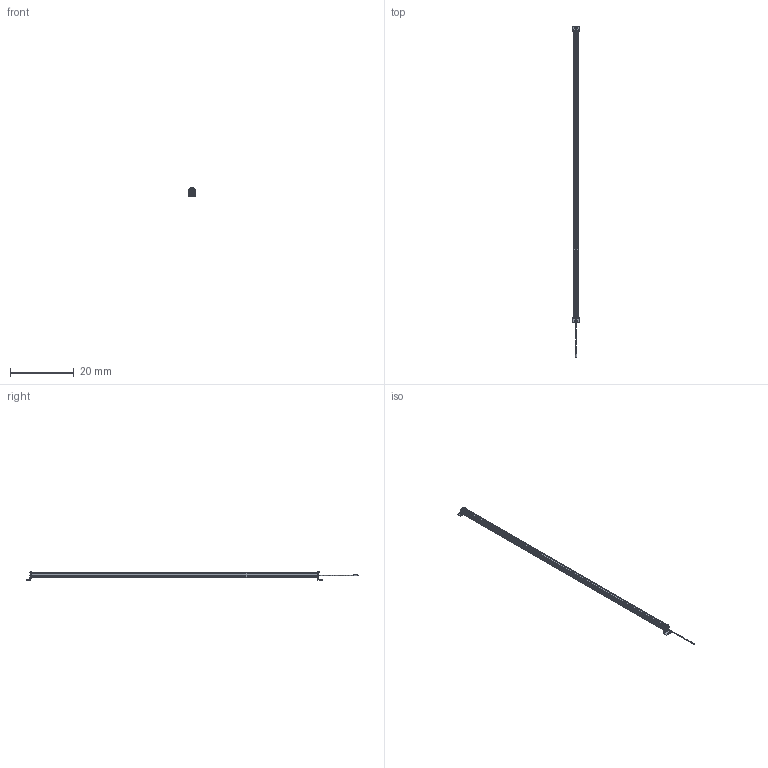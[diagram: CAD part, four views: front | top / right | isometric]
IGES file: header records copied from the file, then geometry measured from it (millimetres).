
Start section:  Autodesk DirectConnect version 7.0.27.0 ---- IGES version 5.3
Global section: file name: C:\ACADFILES\SS_PYLONS\CUSTOMER_FILES\SS-88-PYLON_3D_SMB.iges; native system: Autodesk DirectConnect 7.0.27.0; preprocessor: 7.0.27.0; author: ENGINEERMAIN; organization: Unknown; date: 20150810.130539; units: millimetre
Bounding box: 2.26 x 104.01 x 2.75 mm (x, y, z)
Surface area: 1352.1 mm2 (no closed solid volume)
Topology: 0 solids, 0 shells, 754 faces, 3833 edges, 3829 vertices
Faces by surface type: bspline 754
